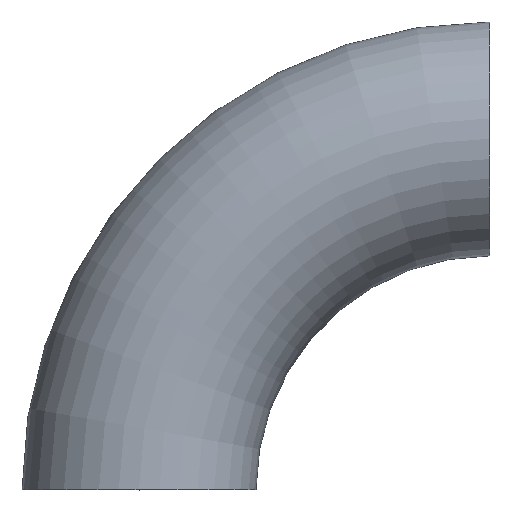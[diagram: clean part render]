
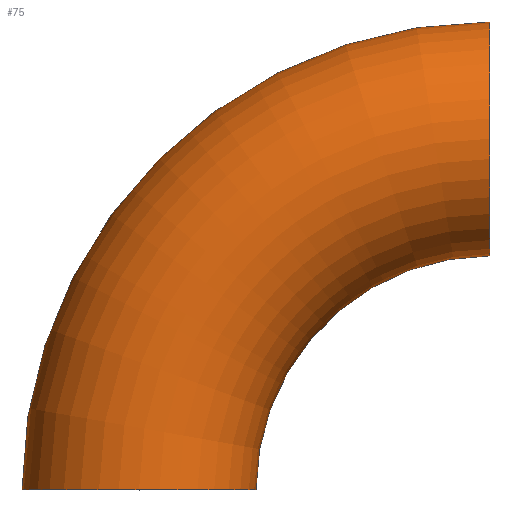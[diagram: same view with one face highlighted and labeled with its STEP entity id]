
A CAD part, top view. The second image highlights one B-rep face of the part: STEP entity #75.
In plain terms, the highlighted toroidal (fillet/blend) face has major radius 28.575 mm and minor radius 9.525 mm.
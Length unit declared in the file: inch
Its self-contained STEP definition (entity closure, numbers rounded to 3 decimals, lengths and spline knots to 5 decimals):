
#1 = VERTEX_POINT ( 'NONE', #112 ) ;
#2 = VERTEX_POINT ( 'NONE', #23 ) ;
#4 = CIRCLE ( 'NONE', #170, 0.375 ) ;
#15 = DIRECTION ( 'NONE',  ( 0., -1., 0. ) ) ;
#16 = DIRECTION ( 'NONE',  ( 0., 0., 1. ) ) ;
#23 = CARTESIAN_POINT ( 'NONE',  ( 0., 0.75, 0. ) ) ;
#25 = CARTESIAN_POINT ( 'NONE',  ( 0., 0., 0. ) ) ;
#27 = DIRECTION ( 'NONE',  ( 0., 1., 0. ) ) ;
#30 = EDGE_LOOP ( 'NONE', ( #68, #249, #64, #172 ) ) ;
#36 = DIRECTION ( 'NONE',  ( 1., 0., 0. ) ) ;
#37 = CARTESIAN_POINT ( 'NONE',  ( -1.125, 0., 0. ) ) ;
#40 = CIRCLE ( 'NONE', #161, 1.5 ) ;
#48 = CIRCLE ( 'NONE', #158, 0.375 ) ;
#55 = DIRECTION ( 'NONE',  ( 0., 0., 1. ) ) ;
#57 = DIRECTION ( 'NONE',  ( 0., -1., 0. ) ) ;
#59 = DIRECTION ( 'NONE',  ( 0., 0., 1. ) ) ;
#64 = ORIENTED_EDGE ( 'NONE', *, *, #247, .T. ) ;
#68 = ORIENTED_EDGE ( 'NONE', *, *, #240, .F. ) ;
#69 = CARTESIAN_POINT ( 'NONE',  ( 0., 0., 0. ) ) ;
#72 = DIRECTION ( 'NONE',  ( 0., 0., 1. ) ) ;
#75 = ADVANCED_FACE ( 'NONE', ( #206 ), #96, .T. ) ;
#88 = VERTEX_POINT ( 'NONE', #248 ) ;
#91 = CARTESIAN_POINT ( 'NONE',  ( 0., 0., 0. ) ) ;
#93 = DIRECTION ( 'NONE',  ( 1., 0., 0. ) ) ;
#96 = TOROIDAL_SURFACE ( 'NONE', #203, 1.125, 0.375 ) ;
#97 = CARTESIAN_POINT ( 'NONE',  ( 0., 1.125, 0. ) ) ;
#112 = CARTESIAN_POINT ( 'NONE',  ( -1.5, 0., 0. ) ) ;
#128 = VERTEX_POINT ( 'NONE', #226 ) ;
#155 = AXIS2_PLACEMENT_3D ( 'NONE', #25, #16, #15 ) ;
#158 = AXIS2_PLACEMENT_3D ( 'NONE', #37, #27, #186 ) ;
#161 = AXIS2_PLACEMENT_3D ( 'NONE', #69, #59, #57 ) ;
#170 = AXIS2_PLACEMENT_3D ( 'NONE', #97, #93, #72 ) ;
#172 = ORIENTED_EDGE ( 'NONE', *, *, #251, .F. ) ;
#186 = DIRECTION ( 'NONE',  ( 0., 0., 1. ) ) ;
#197 = CIRCLE ( 'NONE', #155, 0.75 ) ;
#203 = AXIS2_PLACEMENT_3D ( 'NONE', #91, #55, #36 ) ;
#206 = FACE_OUTER_BOUND ( 'NONE', #30, .T. ) ;
#226 = CARTESIAN_POINT ( 'NONE',  ( -0.75, 0., 0. ) ) ;
#240 = EDGE_CURVE ( 'NONE', #88, #2, #4, .T. ) ;
#245 = EDGE_CURVE ( 'NONE', #88, #1, #40, .T. ) ;
#247 = EDGE_CURVE ( 'NONE', #1, #128, #48, .T. ) ;
#248 = CARTESIAN_POINT ( 'NONE',  ( 0., 1.5, 0. ) ) ;
#249 = ORIENTED_EDGE ( 'NONE', *, *, #245, .T. ) ;
#251 = EDGE_CURVE ( 'NONE', #2, #128, #197, .T. ) ;
